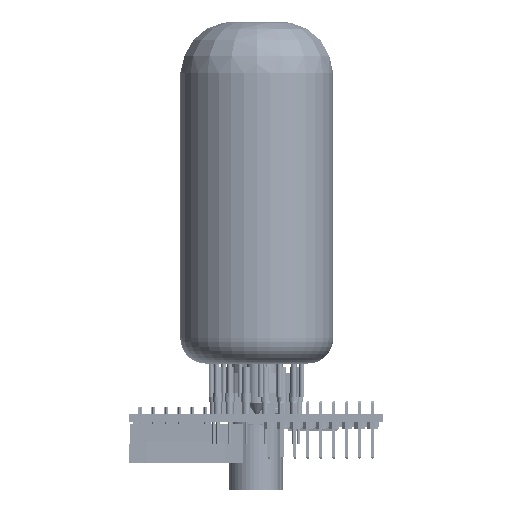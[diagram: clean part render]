
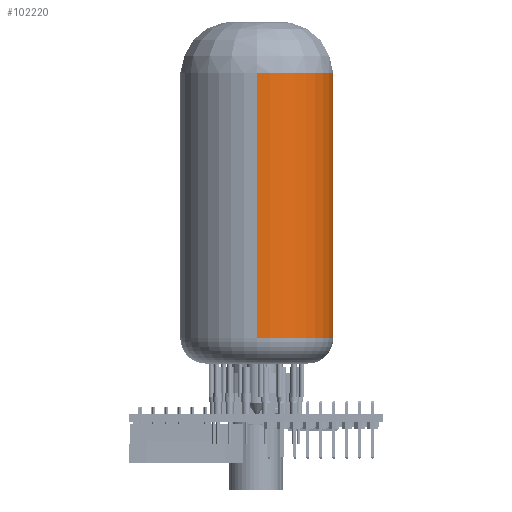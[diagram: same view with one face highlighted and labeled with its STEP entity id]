
A CAD part, left-side view. The second image highlights one B-rep face of the part: STEP entity #102220.
In plain terms, the highlighted cylindrical face has radius 15 mm (diameter 30 mm), a partial arc.
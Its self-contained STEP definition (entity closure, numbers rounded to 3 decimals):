
#102114 = VERTEX_POINT('',#102115);
#102115 = CARTESIAN_POINT('',(4.228,24.843,
    14.809));
#102123 = VERTEX_POINT('',#102124);
#102124 = CARTESIAN_POINT('',(34.228,24.843,
    14.809));
#102147 = VERTEX_POINT('',#102148);
#102148 = CARTESIAN_POINT('',(4.228,24.843,
    66.809));
#102149 = VERTEX_POINT('',#102150);
#102150 = CARTESIAN_POINT('',(34.228,24.843,
    66.809));
#102203 = EDGE_CURVE('',#102149,#102123,#102204,.T.);
#102204 = LINE('',#102205,#102206);
#102205 = CARTESIAN_POINT('',(34.228,24.843,
    76.809));
#102206 = VECTOR('',#102207,1.);
#102207 = DIRECTION('',(0.,0.,-1.));
#102210 = EDGE_CURVE('',#102147,#102114,#102211,.T.);
#102211 = LINE('',#102212,#102213);
#102212 = CARTESIAN_POINT('',(4.228,24.843,
    76.809));
#102213 = VECTOR('',#102214,1.);
#102214 = DIRECTION('',(0.,0.,-1.));
#102220 = ADVANCED_FACE('',(#102221),#102239,.T.);
#102221 = FACE_BOUND('',#102222,.T.);
#102222 = EDGE_LOOP('',(#102223,#102224,#102231,#102232));
#102223 = ORIENTED_EDGE('',*,*,#102203,.F.);
#102224 = ORIENTED_EDGE('',*,*,#102225,.T.);
#102225 = EDGE_CURVE('',#102149,#102147,#102226,.T.);
#102226 = CIRCLE('',#102227,15.);
#102227 = AXIS2_PLACEMENT_3D('',#102228,#102229,#102230);
#102228 = CARTESIAN_POINT('',(19.228,24.843,
    66.809));
#102229 = DIRECTION('',(0.,0.,-1.));
#102230 = DIRECTION('',(1.,0.,0.));
#102231 = ORIENTED_EDGE('',*,*,#102210,.T.);
#102232 = ORIENTED_EDGE('',*,*,#102233,.T.);
#102233 = EDGE_CURVE('',#102114,#102123,#102234,.T.);
#102234 = CIRCLE('',#102235,15.);
#102235 = AXIS2_PLACEMENT_3D('',#102236,#102237,#102238);
#102236 = CARTESIAN_POINT('',(19.228,24.843,
    14.809));
#102237 = DIRECTION('',(0.,0.,1.));
#102238 = DIRECTION('',(1.,0.,0.));
#102239 = CYLINDRICAL_SURFACE('',#102240,15.);
#102240 = AXIS2_PLACEMENT_3D('',#102241,#102242,#102243);
#102241 = CARTESIAN_POINT('',(19.228,24.843,
    76.809));
#102242 = DIRECTION('',(0.,0.,-1.));
#102243 = DIRECTION('',(-1.,0.,0.));
